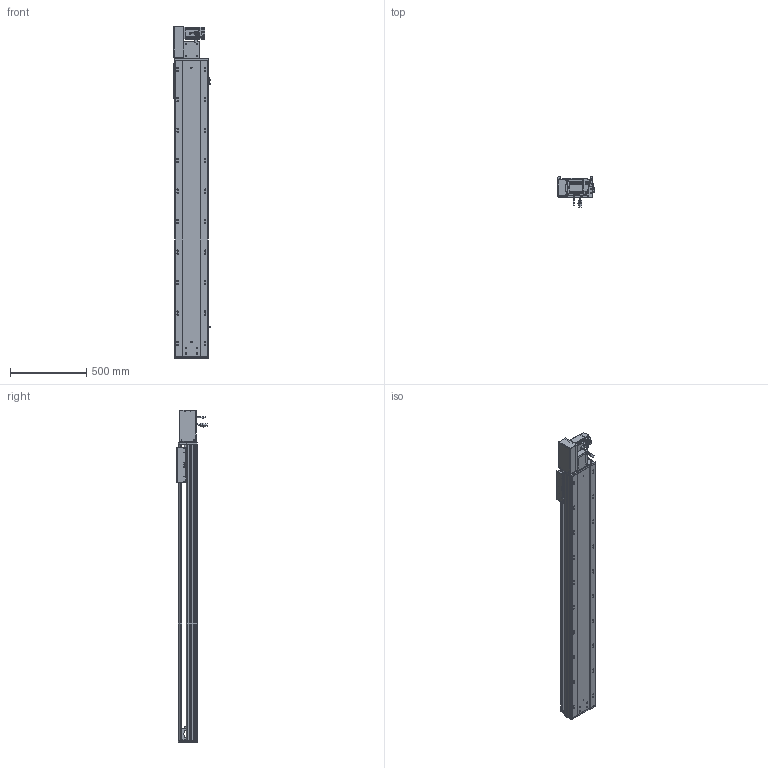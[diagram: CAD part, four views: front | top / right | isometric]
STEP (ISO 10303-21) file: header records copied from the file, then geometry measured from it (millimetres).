
FILE_DESCRIPTION (( 'STEP AP203' ), '1' );
FILE_NAME ('RY220-T-300-LK.SLDASM_1600.step', '2022-07-25T08:14:41', ( '' ), ( '' ), 'SwSTEP 2.0', 'SolidWorks 2016', '' );
FILE_SCHEMA (( 'CONFIG_CONTROL_DESIGN' ));
Length unit declared in the file: millimetre
Products named in the file (14): 110A-T-肮祭謫釱傷裔; RY220-同步轮副支撑座6304×2; 覜茼ん672; RY220-T菁釱-300_1600; RY220-T-300-奻裔啣_1600; RY220-T-蛌殏萇儂假蚾啣(750W); RY220翋肮祭謫釱; RY220-T-湍謫欶(鍼踢); 滅袉蝶18-15; 怢湛750W_ECMA-CX0807ES; RY220-T-300-LK.SLDASM_1600; RY220-俋离672覜茼んえ; RY220圉猾敕々湍臏賑輸; RY220翋肮祭謫裔啣
Assembly tree (18 placements, depth 2):
  RY220-T-300-LK.SLDASM_1600
    RY220-T菁釱-300_1600
    RY220翋肮祭謫釱
    覜茼ん672  x3
    RY220圉猾敕々湍臏賑輸
    RY220-T-300-奻裔啣_1600
    RY220-俋离672覜茼んえ
    滅袉蝶18-15  x3
    RY220翋肮祭謫裔啣  x2
    110A-T-肮祭謫釱傷裔
    怢湛750W_ECMA-CX0807ES
    RY220-T-湍謫欶(鍼踢)
    RY220-T-蛌殏萇儂假蚾啣(750W)
    RY220-同步轮副支撑座6304×2
Bounding box: 239.7 x 198.77 x 2179 mm (x, y, z)
Volume: 16144973.6 mm3; surface area: 4845700.5 mm2
Topology: 19 solids, 19 shells, 2746 faces, 7579 edges, 4786 vertices
Faces by surface type: cylinder 1306, plane 1069, cone 289, bspline 56, sphere 16, torus 10
Entity records: 91331 total; most frequent: CARTESIAN_POINT 25931, ORIENTED_EDGE 13562, DIRECTION 12912, EDGE_CURVE 6781, AXIS2_PLACEMENT_3D 4596, VERTEX_POINT 4410, LINE 3720, VECTOR 3720
